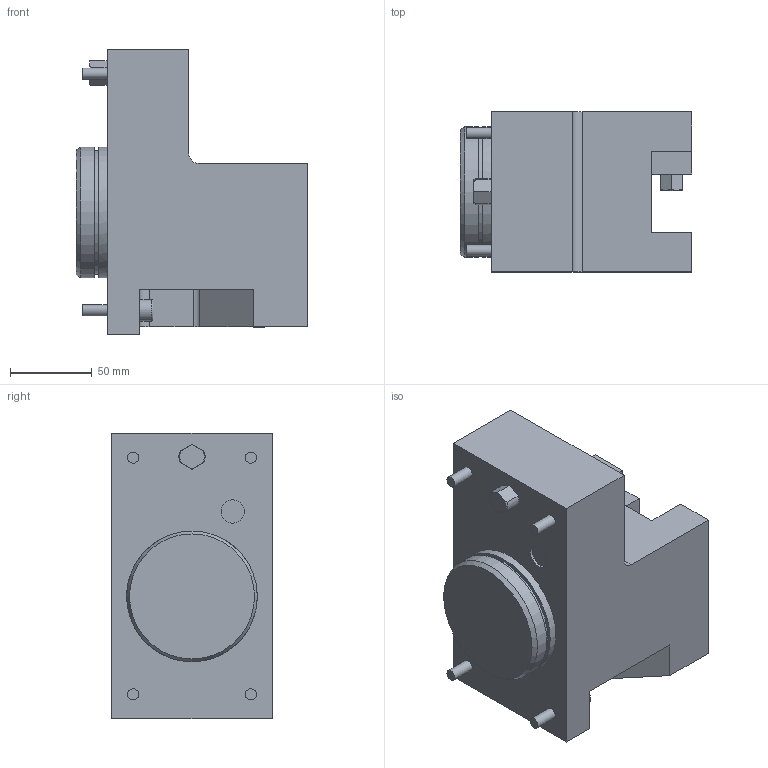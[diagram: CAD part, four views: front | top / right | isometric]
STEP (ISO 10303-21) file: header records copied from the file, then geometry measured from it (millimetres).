
FILE_DESCRIPTION(/* description */ (''),/* implementation_level */ '2;1');
FILE_NAME(/* name */ '178547',/* time_stamp */ '2020-09-28T13:43:15+02:00',/* author */ (''),/* organization */ (''),/* preprocessor_version */ 'ST-DEVELOPER v16.5',/* originating_system */ 'HiCAD 2017 2201.0 Build 268',/* authorisation */ '');
FILE_SCHEMA (('AUTOMOTIVE_DESIGN { 1 0 10303 214 1 1 1 1 }'));
Length unit declared in the file: millimetre
Products named in the file (2): Root; Teil
Assembly tree (1 placements, depth 2):
  Root
    Teil
Bounding box: 142 x 98 x 175 mm (x, y, z)
Volume: 1496394.1 mm3; surface area: 106238 mm2
Topology: 1 solids, 3 shells, 159 faces, 375 edges, 242 vertices
Faces by surface type: plane 118, cylinder 23, cone 12, torus 4, sphere 2
Full cylindrical faces by diameter (mm): 6.6 x2, 6.8 x4, 10 x2, 11 x2, 13 x2, 14.27 x1, 75.8 x1, 80 x2
Entity records: 7588 total; most frequent: DIRECTION 763, CARTESIAN_POINT 720, PRESENTATION_STYLE_ASSIGNMENT 659, COLOUR_RGB 659, DRAUGHTING_PRE_DEFINED_CURVE_FONT 658, CURVE_STYLE 658, OVER_RIDING_STYLED_ITEM 658, ORIENTED_EDGE 658
